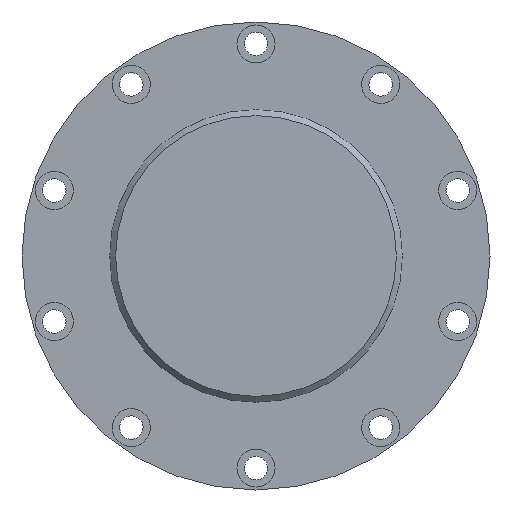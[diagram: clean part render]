
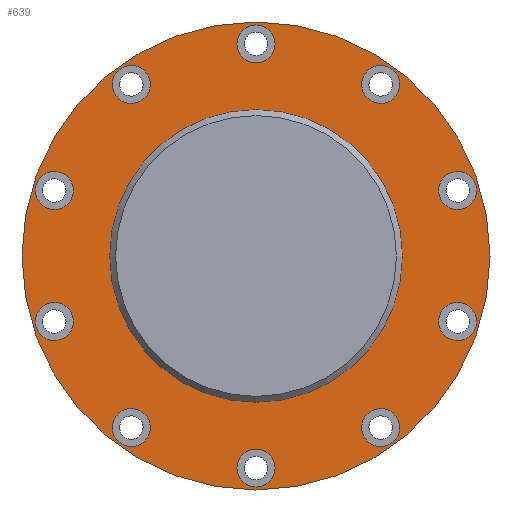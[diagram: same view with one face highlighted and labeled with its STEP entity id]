
A CAD part, front view. The second image highlights one B-rep face of the part: STEP entity #639.
In plain terms, the highlighted planar face has unit normal (0, -1, 0).
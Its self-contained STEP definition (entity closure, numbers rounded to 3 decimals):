
#100=FACE_BOUND('',#206,.T.);
#101=FACE_BOUND('',#207,.T.);
#102=FACE_BOUND('',#208,.T.);
#103=FACE_BOUND('',#209,.T.);
#104=FACE_BOUND('',#210,.T.);
#105=FACE_BOUND('',#211,.T.);
#106=FACE_BOUND('',#212,.T.);
#107=FACE_BOUND('',#213,.T.);
#108=FACE_BOUND('',#214,.T.);
#109=FACE_BOUND('',#215,.T.);
#110=FACE_BOUND('',#216,.T.);
#153=FACE_OUTER_BOUND('',#205,.T.);
#205=EDGE_LOOP('',(#532));
#206=EDGE_LOOP('',(#533));
#207=EDGE_LOOP('',(#534));
#208=EDGE_LOOP('',(#535));
#209=EDGE_LOOP('',(#536));
#210=EDGE_LOOP('',(#537));
#211=EDGE_LOOP('',(#538));
#212=EDGE_LOOP('',(#539));
#213=EDGE_LOOP('',(#540));
#214=EDGE_LOOP('',(#541));
#215=EDGE_LOOP('',(#542));
#216=EDGE_LOOP('',(#543));
#242=CIRCLE('',#675,6.5);
#246=CIRCLE('',#682,6.5);
#250=CIRCLE('',#689,6.5);
#254=CIRCLE('',#696,6.5);
#258=CIRCLE('',#703,6.5);
#262=CIRCLE('',#710,6.5);
#266=CIRCLE('',#717,6.5);
#270=CIRCLE('',#724,6.5);
#274=CIRCLE('',#731,6.5);
#278=CIRCLE('',#738,6.5);
#280=CIRCLE('',#742,80.);
#281=CIRCLE('',#743,50.);
#299=VERTEX_POINT('',#1001);
#303=VERTEX_POINT('',#1014);
#307=VERTEX_POINT('',#1027);
#311=VERTEX_POINT('',#1040);
#315=VERTEX_POINT('',#1053);
#319=VERTEX_POINT('',#1066);
#323=VERTEX_POINT('',#1079);
#327=VERTEX_POINT('',#1092);
#331=VERTEX_POINT('',#1105);
#335=VERTEX_POINT('',#1118);
#337=VERTEX_POINT('',#1126);
#338=VERTEX_POINT('',#1128);
#353=EDGE_CURVE('',#299,#299,#242,.T.);
#359=EDGE_CURVE('',#303,#303,#246,.T.);
#365=EDGE_CURVE('',#307,#307,#250,.T.);
#371=EDGE_CURVE('',#311,#311,#254,.T.);
#377=EDGE_CURVE('',#315,#315,#258,.T.);
#383=EDGE_CURVE('',#319,#319,#262,.T.);
#389=EDGE_CURVE('',#323,#323,#266,.T.);
#395=EDGE_CURVE('',#327,#327,#270,.T.);
#401=EDGE_CURVE('',#331,#331,#274,.T.);
#407=EDGE_CURVE('',#335,#335,#278,.T.);
#411=EDGE_CURVE('',#337,#337,#280,.T.);
#412=EDGE_CURVE('',#338,#338,#281,.T.);
#532=ORIENTED_EDGE('',*,*,#411,.T.);
#533=ORIENTED_EDGE('',*,*,#353,.T.);
#534=ORIENTED_EDGE('',*,*,#359,.T.);
#535=ORIENTED_EDGE('',*,*,#365,.T.);
#536=ORIENTED_EDGE('',*,*,#371,.T.);
#537=ORIENTED_EDGE('',*,*,#377,.T.);
#538=ORIENTED_EDGE('',*,*,#383,.T.);
#539=ORIENTED_EDGE('',*,*,#389,.T.);
#540=ORIENTED_EDGE('',*,*,#395,.T.);
#541=ORIENTED_EDGE('',*,*,#401,.T.);
#542=ORIENTED_EDGE('',*,*,#407,.T.);
#543=ORIENTED_EDGE('',*,*,#412,.F.);
#604=PLANE('',#741);
#639=ADVANCED_FACE('',(#153,#100,#101,#102,#103,#104,#105,#106,#107,#108,
#109,#110),#604,.T.);
#675=AXIS2_PLACEMENT_3D('',#1002,#780,#781);
#682=AXIS2_PLACEMENT_3D('',#1015,#796,#797);
#689=AXIS2_PLACEMENT_3D('',#1028,#812,#813);
#696=AXIS2_PLACEMENT_3D('',#1041,#828,#829);
#703=AXIS2_PLACEMENT_3D('',#1054,#844,#845);
#710=AXIS2_PLACEMENT_3D('',#1067,#860,#861);
#717=AXIS2_PLACEMENT_3D('',#1080,#876,#877);
#724=AXIS2_PLACEMENT_3D('',#1093,#892,#893);
#731=AXIS2_PLACEMENT_3D('',#1106,#908,#909);
#738=AXIS2_PLACEMENT_3D('',#1119,#924,#925);
#741=AXIS2_PLACEMENT_3D('',#1125,#932,#933);
#742=AXIS2_PLACEMENT_3D('',#1127,#934,#935);
#743=AXIS2_PLACEMENT_3D('',#1129,#936,#937);
#780=DIRECTION('center_axis',(0.,1.,0.));
#781=DIRECTION('ref_axis',(0.809,0.,-0.588));
#796=DIRECTION('center_axis',(0.,1.,0.));
#797=DIRECTION('ref_axis',(0.309,0.,-0.951));
#812=DIRECTION('center_axis',(0.,1.,0.));
#813=DIRECTION('ref_axis',(-0.309,0.,-0.951));
#828=DIRECTION('center_axis',(0.,1.,0.));
#829=DIRECTION('ref_axis',(-0.809,0.,-0.588));
#844=DIRECTION('center_axis',(0.,1.,0.));
#845=DIRECTION('ref_axis',(-1.,0.,0.));
#860=DIRECTION('center_axis',(0.,1.,0.));
#861=DIRECTION('ref_axis',(-0.809,0.,0.588));
#876=DIRECTION('center_axis',(0.,1.,0.));
#877=DIRECTION('ref_axis',(-0.309,0.,0.951));
#892=DIRECTION('center_axis',(0.,1.,0.));
#893=DIRECTION('ref_axis',(0.309,0.,0.951));
#908=DIRECTION('center_axis',(0.,1.,0.));
#909=DIRECTION('ref_axis',(0.809,0.,0.588));
#924=DIRECTION('center_axis',(0.,1.,0.));
#925=DIRECTION('ref_axis',(1.,0.,0.));
#932=DIRECTION('center_axis',(0.,-1.,0.));
#933=DIRECTION('ref_axis',(0.,0.,-1.));
#934=DIRECTION('center_axis',(0.,-1.,0.));
#935=DIRECTION('ref_axis',(1.,0.,0.));
#936=DIRECTION('center_axis',(0.,-1.,0.));
#937=DIRECTION('ref_axis',(1.,0.,0.));
#1001=CARTESIAN_POINT('',(37.356,-5.,62.474));
#1002=CARTESIAN_POINT('Origin',(42.614,-5.,58.654));
#1014=CARTESIAN_POINT('',(66.943,-5.,28.586));
#1015=CARTESIAN_POINT('Origin',(68.952,-5.,22.404));
#1027=CARTESIAN_POINT('',(70.96,-5.,-16.222));
#1028=CARTESIAN_POINT('Origin',(68.952,-5.,-22.404));
#1040=CARTESIAN_POINT('',(47.873,-5.,-54.833));
#1041=CARTESIAN_POINT('Origin',(42.614,-5.,-58.654));
#1053=CARTESIAN_POINT('',(6.5,-5.,-72.5));
#1054=CARTESIAN_POINT('Origin',(0.,-5.,
-72.5));
#1066=CARTESIAN_POINT('',(-37.356,-5.,-62.474));
#1067=CARTESIAN_POINT('Origin',(-42.614,-5.,-58.654));
#1079=CARTESIAN_POINT('',(-66.943,-5.,-28.586));
#1080=CARTESIAN_POINT('Origin',(-68.952,-5.,-22.404));
#1092=CARTESIAN_POINT('',(-70.96,-5.,16.222));
#1093=CARTESIAN_POINT('Origin',(-68.952,-5.,22.404));
#1105=CARTESIAN_POINT('',(-47.873,-5.,54.833));
#1106=CARTESIAN_POINT('Origin',(-42.614,-5.,58.654));
#1118=CARTESIAN_POINT('',(-6.5,-5.,72.5));
#1119=CARTESIAN_POINT('Origin',(0.,-5.,72.5));
#1125=CARTESIAN_POINT('Origin',(50.,-5.,0.));
#1126=CARTESIAN_POINT('',(-80.,-5.,0.));
#1127=CARTESIAN_POINT('Origin',(0.,-5.,0.));
#1128=CARTESIAN_POINT('',(-50.,-5.,0.));
#1129=CARTESIAN_POINT('Origin',(0.,-5.,0.));
